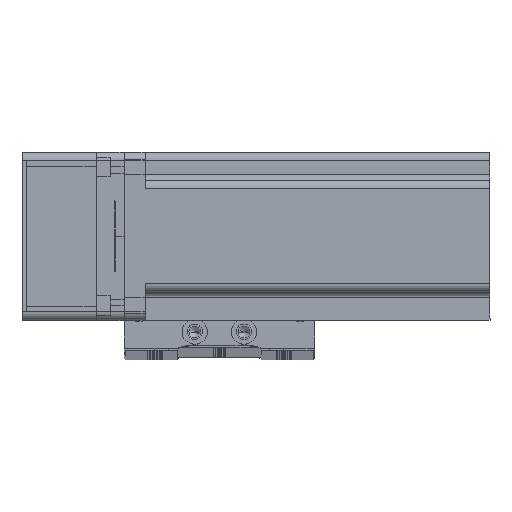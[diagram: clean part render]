
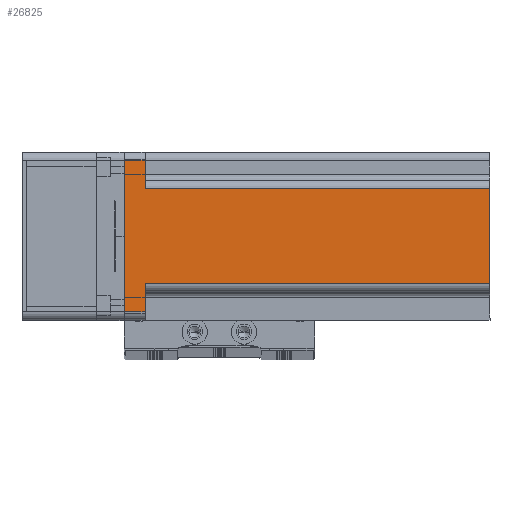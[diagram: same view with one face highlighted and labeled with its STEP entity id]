
A CAD part, top view. The second image highlights one B-rep face of the part: STEP entity #26825.
In plain terms, the highlighted planar face has unit normal (0, 0, 1) as drawn and (0, 1, 0) by its records, which use the part's own axes.
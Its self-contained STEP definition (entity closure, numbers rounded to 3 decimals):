
#283 = VECTOR ( 'NONE', #41687, 1000. ) ;
#478 = LINE ( 'NONE', #44474, #55534 ) ;
#862 = CARTESIAN_POINT ( 'NONE',  ( 27., 30., 130.7 ) ) ;
#1625 = EDGE_CURVE ( 'NONE', #35706, #6855, #40437, .T. ) ;
#2687 = PLANE ( 'NONE',  #36855 ) ;
#3940 = EDGE_CURVE ( 'NONE', #46434, #60320, #6329, .T. ) ;
#4122 = DIRECTION ( 'NONE',  ( 0., 0., 1. ) ) ;
#6277 = LINE ( 'NONE', #43505, #61432 ) ;
#6329 = LINE ( 'NONE', #19580, #31341 ) ;
#6849 = DIRECTION ( 'NONE',  ( 1., 0., 0. ) ) ;
#6855 = VERTEX_POINT ( 'NONE', #54382 ) ;
#7235 = CARTESIAN_POINT ( 'NONE',  ( -20., 30., 7.5 ) ) ;
#9716 = CARTESIAN_POINT ( 'NONE',  ( 17., 30., 130.7 ) ) ;
#10467 = ORIENTED_EDGE ( 'NONE', *, *, #1625, .T. ) ;
#10902 = CARTESIAN_POINT ( 'NONE',  ( -17., 30., 130.7 ) ) ;
#11259 = CARTESIAN_POINT ( 'NONE',  ( 27., 30., 7.5 ) ) ;
#11831 = EDGE_CURVE ( 'NONE', #14940, #63442, #6277, .T. ) ;
#12424 = DIRECTION ( 'NONE',  ( 0., 0., 1. ) ) ;
#12576 = VECTOR ( 'NONE', #43540, 1000. ) ;
#12867 = EDGE_LOOP ( 'NONE', ( #10467, #31405, #32803, #35914, #54235, #17266, #45483, #65106 ) ) ;
#13438 = CARTESIAN_POINT ( 'NONE',  ( 20., 30., 7.5 ) ) ;
#14940 = VERTEX_POINT ( 'NONE', #38219 ) ;
#17266 = ORIENTED_EDGE ( 'NONE', *, *, #65816, .T. ) ;
#19290 = CARTESIAN_POINT ( 'NONE',  ( -27., 30., 0. ) ) ;
#19580 = CARTESIAN_POINT ( 'NONE',  ( 30., 30., 0. ) ) ;
#22191 = EDGE_CURVE ( 'NONE', #63916, #29438, #36464, .T. ) ;
#23278 = LINE ( 'NONE', #68069, #39132 ) ;
#26090 = EDGE_CURVE ( 'NONE', #14940, #29438, #55343, .T. ) ;
#26825 = ADVANCED_FACE ( 'NONE', ( #30009 ), #2687, .F. ) ;
#29438 = VERTEX_POINT ( 'NONE', #44009 ) ;
#29467 = DIRECTION ( 'NONE',  ( 0., -1., 0. ) ) ;
#29712 = CARTESIAN_POINT ( 'NONE',  ( 27., 30., 0. ) ) ;
#30009 = FACE_OUTER_BOUND ( 'NONE', #12867, .T. ) ;
#30814 = EDGE_CURVE ( 'NONE', #6855, #63442, #478, .T. ) ;
#31341 = VECTOR ( 'NONE', #59628, 1000. ) ;
#31405 = ORIENTED_EDGE ( 'NONE', *, *, #30814, .T. ) ;
#32803 = ORIENTED_EDGE ( 'NONE', *, *, #11831, .F. ) ;
#35706 = VERTEX_POINT ( 'NONE', #49874 ) ;
#35912 = EDGE_CURVE ( 'NONE', #60320, #35706, #23278, .T. ) ;
#35914 = ORIENTED_EDGE ( 'NONE', *, *, #26090, .T. ) ;
#36464 = LINE ( 'NONE', #13438, #64909 ) ;
#36855 = AXIS2_PLACEMENT_3D ( 'NONE', #61488, #29467, #66807 ) ;
#38219 = CARTESIAN_POINT ( 'NONE',  ( 17., 30., 130.7 ) ) ;
#39132 = VECTOR ( 'NONE', #4122, 1000. ) ;
#40437 = LINE ( 'NONE', #7235, #54662 ) ;
#41687 = DIRECTION ( 'NONE',  ( 0., 0., -1. ) ) ;
#43505 = CARTESIAN_POINT ( 'NONE',  ( 30., 30., 130.7 ) ) ;
#43540 = DIRECTION ( 'NONE',  ( 0., 0., -1. ) ) ;
#44009 = CARTESIAN_POINT ( 'NONE',  ( 17., 30., 7.5 ) ) ;
#44474 = CARTESIAN_POINT ( 'NONE',  ( -17., 30., 130.7 ) ) ;
#45483 = ORIENTED_EDGE ( 'NONE', *, *, #3940, .T. ) ;
#46434 = VERTEX_POINT ( 'NONE', #29712 ) ;
#48822 = DIRECTION ( 'NONE',  ( -1., 0., 0. ) ) ;
#49874 = CARTESIAN_POINT ( 'NONE',  ( -27., 30., 7.5 ) ) ;
#53530 = LINE ( 'NONE', #862, #12576 ) ;
#54235 = ORIENTED_EDGE ( 'NONE', *, *, #22191, .F. ) ;
#54382 = CARTESIAN_POINT ( 'NONE',  ( -17., 30., 7.5 ) ) ;
#54662 = VECTOR ( 'NONE', #6849, 1000. ) ;
#55343 = LINE ( 'NONE', #9716, #283 ) ;
#55534 = VECTOR ( 'NONE', #12424, 1000. ) ;
#59628 = DIRECTION ( 'NONE',  ( -1., 0., 0. ) ) ;
#60320 = VERTEX_POINT ( 'NONE', #19290 ) ;
#61432 = VECTOR ( 'NONE', #48822, 1000. ) ;
#61488 = CARTESIAN_POINT ( 'NONE',  ( 30., 30., 130.7 ) ) ;
#63442 = VERTEX_POINT ( 'NONE', #10902 ) ;
#63916 = VERTEX_POINT ( 'NONE', #11259 ) ;
#64909 = VECTOR ( 'NONE', #67367, 1000. ) ;
#65106 = ORIENTED_EDGE ( 'NONE', *, *, #35912, .T. ) ;
#65816 = EDGE_CURVE ( 'NONE', #63916, #46434, #53530, .T. ) ;
#66807 = DIRECTION ( 'NONE',  ( 1., 0., 0. ) ) ;
#67367 = DIRECTION ( 'NONE',  ( -1., 0., 0. ) ) ;
#68069 = CARTESIAN_POINT ( 'NONE',  ( -27., 30., 130.7 ) ) ;
